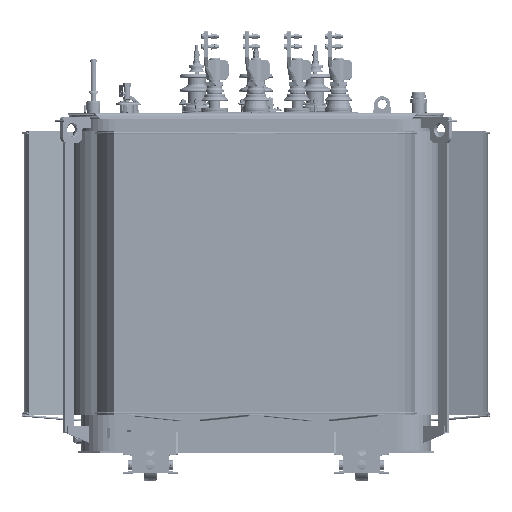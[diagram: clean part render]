
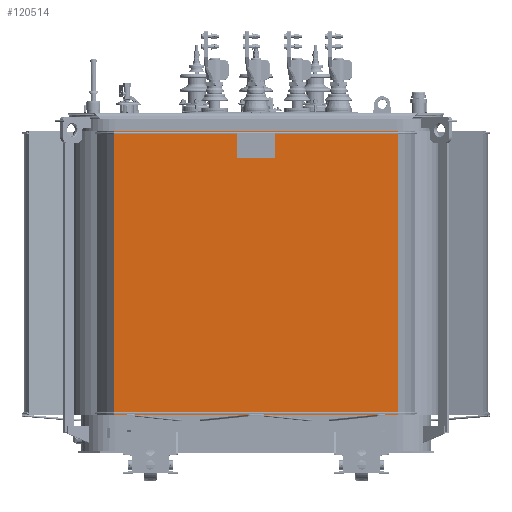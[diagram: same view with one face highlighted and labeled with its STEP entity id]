
A CAD part, top view. The second image highlights one B-rep face of the part: STEP entity #120514.
In plain terms, the highlighted planar face has unit normal (0, 0, 1).
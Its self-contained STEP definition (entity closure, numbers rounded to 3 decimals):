
#20322=FACE_OUTER_BOUND('',#28027,.T.);
#28027=EDGE_LOOP('',(#102767,#102768,#102769,#102770));
#35795=LINE('',#240802,#43571);
#35796=LINE('',#240805,#43572);
#35797=LINE('',#240807,#43573);
#35798=LINE('',#240808,#43574);
#43571=VECTOR('',#159491,10.);
#43572=VECTOR('',#159494,10.);
#43573=VECTOR('',#159495,10.);
#43574=VECTOR('',#159496,10.);
#53929=VERTEX_POINT('',#240798);
#53930=VERTEX_POINT('',#240800);
#53931=VERTEX_POINT('',#240804);
#53932=VERTEX_POINT('',#240806);
#70222=EDGE_CURVE('',#53929,#53930,#35795,.T.);
#70223=EDGE_CURVE('',#53929,#53931,#35796,.T.);
#70224=EDGE_CURVE('',#53932,#53930,#35797,.T.);
#70225=EDGE_CURVE('',#53931,#53932,#35798,.T.);
#102767=ORIENTED_EDGE('',*,*,#70223,.F.);
#102768=ORIENTED_EDGE('',*,*,#70222,.T.);
#102769=ORIENTED_EDGE('',*,*,#70224,.F.);
#102770=ORIENTED_EDGE('',*,*,#70225,.F.);
#106107=PLANE('',#131173);
#120514=ADVANCED_FACE('',(#20322),#106107,.T.);
#131173=AXIS2_PLACEMENT_3D('',#240803,#159492,#159493);
#159491=DIRECTION('',(0.,1.,0.));
#159492=DIRECTION('center_axis',(0.,0.,1.));
#159493=DIRECTION('ref_axis',(1.,0.,0.));
#159494=DIRECTION('',(-1.,0.,0.));
#159495=DIRECTION('',(1.,0.,0.));
#159496=DIRECTION('',(0.,1.,0.));
#240798=CARTESIAN_POINT('',(550.,146.,575.));
#240800=CARTESIAN_POINT('',(550.,1246.,575.));
#240802=CARTESIAN_POINT('',(550.,146.,575.));
#240803=CARTESIAN_POINT('Origin',(-550.,146.,575.));
#240804=CARTESIAN_POINT('',(-550.,146.,575.));
#240805=CARTESIAN_POINT('',(550.,146.,575.));
#240806=CARTESIAN_POINT('',(-550.,1246.,575.));
#240807=CARTESIAN_POINT('',(550.,1246.,575.));
#240808=CARTESIAN_POINT('',(-550.,146.,575.));
